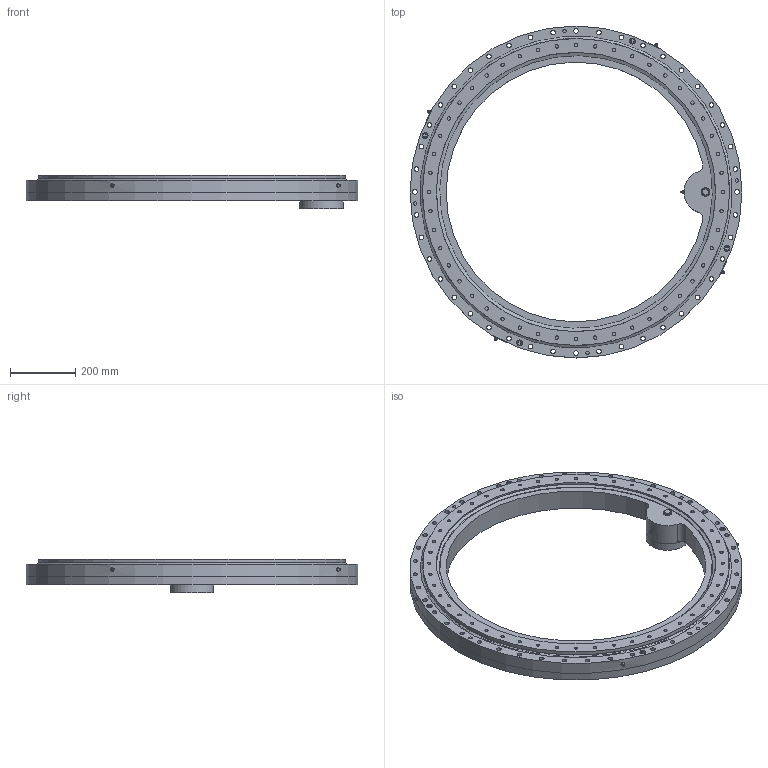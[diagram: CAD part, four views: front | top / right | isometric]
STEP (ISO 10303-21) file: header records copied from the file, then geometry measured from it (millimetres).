
FILE_DESCRIPTION(/* description */ ('STEP AP214'),/* implementation_level */ '2;1');
FILE_NAME(/* name */ '\\Serwer-ad\dnia$\dnia_tomasz_tb\Desktop\Tomcio\1. Cenniki + katalogi + materiały\U- Transmission\Katalogi 2023\Wersja NATECH DRV\Inner gear - slew drive\Inner gear slew drive - 3D\PT-L-0941-I-B-S.stp',/* time_stamp */ '2024-06-12T09:14:25+02:00',/* author */ ('dnia_tomasz_tb'),/* organization */ (''),/* preprocessor_version */ 'ST-DEVELOPER v19',/* originating_system */ 'Autodesk Inventor 2023',/* authorisation */ '');
FILE_SCHEMA (('AUTOMOTIVE_DESIGN { 1 0 10303 214 3 1 1 }'));
Length unit declared in the file: millimetre
Products named in the file (1): PT-L-0941-I-B-S
Bounding box: 1015 x 1015 x 103 mm (x, y, z)
Surface area: 1561829.7 mm2 (no closed solid volume)
Topology: 0 solids, 46 shells, 338 faces, 1008 edges, 709 vertices
Faces by surface type: cylinder 180, plane 123, torus 19, cone 16
Full cylindrical faces by diameter (mm): 8.5 x4, 10 x4, 10.2 x52, 14 x44, 15 x8, 16 x44, 18 x4, 21 x1, 25 x1, 45 x1, 54 x1, 65 x1, 66 x1, 82.58 x1, 132 x1, 854 x1, 939 x1, 1015 x2
Entity records: 13141 total; most frequent: CARTESIAN_POINT 2704, DIRECTION 2185, ORIENTED_EDGE 1667, EDGE_CURVE 1005, AXIS2_PLACEMENT_3D 851, VERTEX_POINT 709, EDGE_LOOP 664, CIRCLE 512
